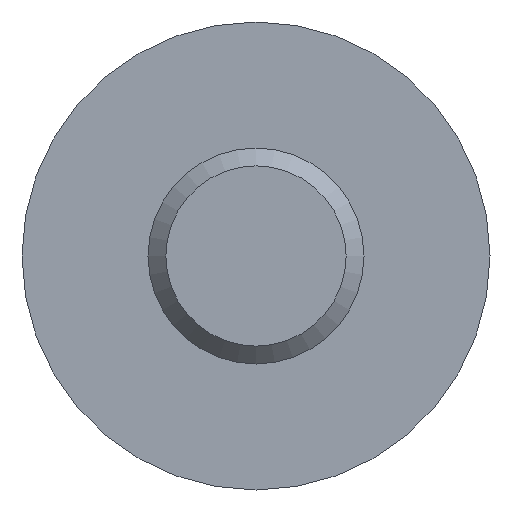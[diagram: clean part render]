
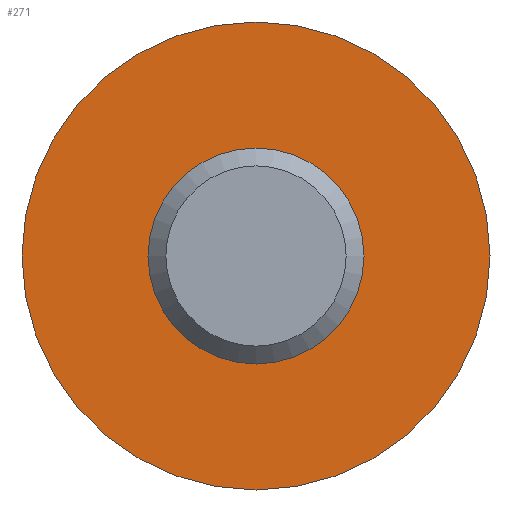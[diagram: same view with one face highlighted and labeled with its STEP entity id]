
A CAD part, front view. The second image highlights one B-rep face of the part: STEP entity #271.
In plain terms, the highlighted planar face has unit normal (0, -1, 0).
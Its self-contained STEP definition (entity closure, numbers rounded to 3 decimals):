
#234=CARTESIAN_POINT('',(9.189,21.69,-7.15));
#235=DIRECTION('',(0.0,1.0,0.0));
#236=DIRECTION('',(0.0,0.0,1.0));
#237=AXIS2_PLACEMENT_3D('',#234,#235,#236);
#238=PLANE('',#237);
#239=CARTESIAN_POINT('',(9.189,21.69,6.5));
#240=VERTEX_POINT('',#239);
#241=CARTESIAN_POINT('',(9.189,21.69,0.));
#242=DIRECTION('',(0.0,1.0,0.0));
#243=DIRECTION('',(-0.581,0.0,0.814));
#244=AXIS2_PLACEMENT_3D('',#241,#242,#243);
#245=CIRCLE('',#244,6.5);
#246=EDGE_CURVE('',#240,#240,#245,.T.);
#247=ORIENTED_EDGE('',*,*,#246,.F.);
#248=CARTESIAN_POINT('',(9.189,21.69,3.));
#249=VERTEX_POINT('',#248);
#250=CARTESIAN_POINT('',(9.189,21.69,6.5));
#251=DIRECTION('',(0.0,0.0,-1.0));
#252=VECTOR('',#251,3.5);
#253=LINE('',#250,#252);
#254=EDGE_CURVE('',#240,#249,#253,.T.);
#255=ORIENTED_EDGE('',*,*,#254,.T.);
#256=CARTESIAN_POINT('',(9.189,21.69,0.));
#257=DIRECTION('',(0.0,1.,0.0));
#258=DIRECTION('',(-0.581,0.0,0.814));
#259=AXIS2_PLACEMENT_3D('',#256,#257,#258);
#260=CIRCLE('',#259,3.);
#261=EDGE_CURVE('',#249,#249,#260,.T.);
#262=ORIENTED_EDGE('',*,*,#261,.T.);
#263=CARTESIAN_POINT('',(9.189,21.69,6.5));
#264=DIRECTION('',(0.0,0.0,-1.0));
#265=VECTOR('',#264,3.5);
#266=LINE('',#263,#265);
#267=EDGE_CURVE('',#240,#249,#266,.T.);
#268=ORIENTED_EDGE('',*,*,#267,.F.);
#269=EDGE_LOOP('',(#247,#255,#262,#268));
#270=FACE_OUTER_BOUND('',#269,.T.);
#271=ADVANCED_FACE('',(#270),#238,.F.);
